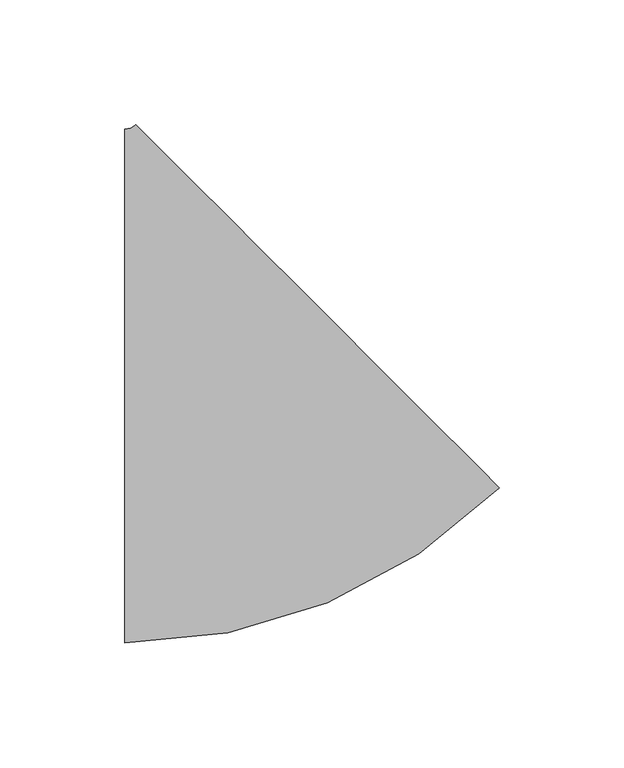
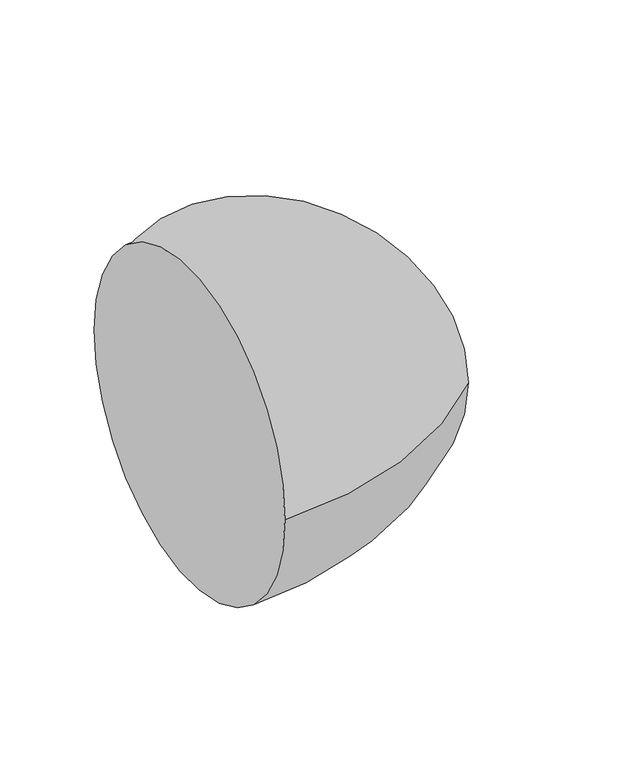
"""IFC4 building model written with IfcOpenShell, lengths in millimetres: pipe fitting geometry, M_Codo - Genérico : Estándar."""

from ifc_helpers import new_model, si_unit, point, frame, origin, place, context, project, spatial, circle_curve, ellipse_curve, trimmed, source, transform, mapped, element, save
from ifc_brep_helpers import plane_surface, revolved_surface, advanced_brep


def pipe_fitting_c73de51f(model_context):
    return source(origin(), model_context, "Body", "AdvancedBrep", [
        advanced_brep(
        [(-45.3649265, -103.1875, 0.0), (-45.3649265, 103.1875, 0.0), (105.0379723, -40.8981795, 0.0), (-40.8752877, 105.0468827, 0.0)],
        [
            (0, 1, circle_curve(frame((-45.3649265, 0.0, 0.0), z_axis=(-1.0, 0.0, 0.0), x_axis=(0.0, 1.0, 0.0)), 103.1875)),
            (1, 0, circle_curve(frame((-45.3649265, 0.0, 0.0), z_axis=(-1.0, 0.0, 0.0), x_axis=(0.0, 1.0, 0.0)), 103.1875)),
            (2, 3, circle_curve(frame((32.0813423, 32.0743516, 0.0), z_axis=(0.7071838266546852, 0.7070297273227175, 0.0), x_axis=(-0.7070297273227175, 0.7071838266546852, 0.0)), 103.1875)),
            (3, 2, circle_curve(frame((32.0813423, 32.0743516, 0.0), z_axis=(0.7071838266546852, 0.7070297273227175, 0.0), x_axis=(-0.7070297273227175, 0.7071838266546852, 0.0)), 103.1875)),
            (3, 1, circle_curve(frame((-45.3649265, 109.5375, 0.0), z_axis=(0.0, 0.0, -1.0), x_axis=(0.0, -1.0, 0.0)), 6.35)),
            (0, 2, circle_curve(frame((-45.3649265, 109.5375, 0.0), z_axis=(0.0, 0.0, 1.0), x_axis=(0.0, -1.0, 0.0)), 212.725)),
        ],
        [
            plane_surface(frame((-45.3649265, 0.0, 0.0), z_axis=(-1.0, 0.0, 0.0), x_axis=(0.0, 0.0, 1.0))),
            plane_surface(frame((32.0813423, 32.0743516, 0.0), z_axis=(0.7071838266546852, 0.7070297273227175, 0.0), x_axis=(0.0, 0.0, 1.0))),
            revolved_surface(trimmed(ellipse_curve(frame((-45.3649265, 0.0, 0.0), z_axis=(-1.0, 0.0, 0.0), x_axis=(0.0, 1.0, 0.0)), 103.1875, 103.1875), [point((-45.3649265, -103.1875, 0.0))], [point((-45.3649265, 103.1875, 0.0))], True, "CARTESIAN"), (-45.3649265, 109.5375, 0.0), (0.0, 0.0, 1.0)),
            revolved_surface(trimmed(ellipse_curve(frame((-45.3649265, 0.0, 0.0), z_axis=(-1.0, 0.0, 0.0), x_axis=(0.0, 1.0, 0.0)), 103.1875, 103.1875), [point((-45.3649265, 103.1875, 0.0))], [point((-45.3649265, -103.1875, 0.0))], True, "CARTESIAN"), (-45.3649265, 109.5375, 0.0), (0.0, 0.0, 1.0)),
        ],
        [
            (0, [[1, 2]]),
            (1, [[3, 4]]),
            (2, [[5, -1, 6, -4]]),
            (3, [[-6, -2, -5, -3]]),
        ],
    ),
    ])


if __name__ == "__main__":
    model = new_model("IFC4")
    model_context = context("Model", 3, world=origin())
    ifc_project = project(units=[si_unit("LENGTHUNIT", "METRE", prefix="MILLI")], contexts=[model_context])
    site = spatial("IfcSite", under=ifc_project)
    building = spatial("IfcBuilding", under=site)
    placement = place(None, origin())
    pipe_fitting_shape = pipe_fitting_c73de51f(model_context)
    element("IfcPipeFitting", 1, ObjectType="M_Codo - Genérico : Estándar", at=placement, inside=building, context=model_context, shape_type="MappedRepresentation", body=[
        mapped(pipe_fitting_shape, transform((0.0, 0.0, 0.0), x_axis=(1.0, 0.0, 0.0), y_axis=(0.0, 1.0, 0.0), z_axis=(0.0, 0.0, 1.0))),
    ])
    save(model, "model.ifc")
